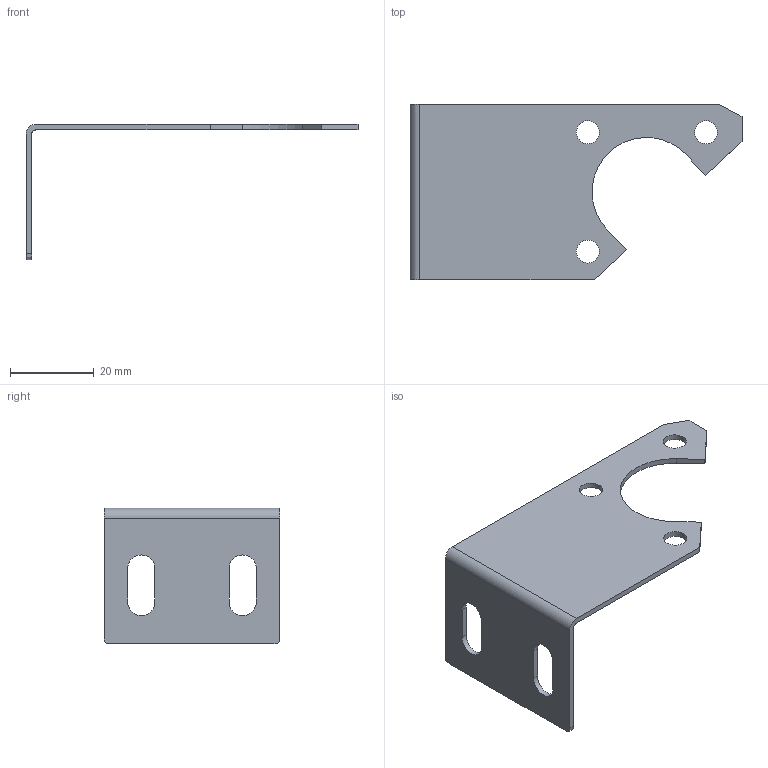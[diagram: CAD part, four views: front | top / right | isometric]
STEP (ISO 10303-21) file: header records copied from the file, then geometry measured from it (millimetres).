
FILE_DESCRIPTION(/* description */ (''),/* implementation_level */ '2;1');
FILE_NAME(/* name */ 'B-BW00-52.step',/* time_stamp */ '2024-07-09T15:12:33+02:00',/* author */ (''),/* organization */ (''),/* preprocessor_version */ 'ST-DEVELOPER v20',/* originating_system */ 'Autodesk Translation Framework v13.14.0.145',/* authorisation */ '');
FILE_SCHEMA (('AUTOMOTIVE_DESIGN { 1 0 10303 214 3 1 1 }'));
Length unit declared in the file: millimetre
Products named in the file (1): BW00-52
Bounding box: 79.35 x 42 x 32.35 mm (x, y, z)
Volume: 4492.8 mm3; surface area: 7240.8 mm2
Topology: 1 solids, 1 shells, 29 faces, 81 edges, 54 vertices
Faces by surface type: plane 17, cylinder 10, bspline 2
Full cylindrical faces by diameter (mm): 5.5 x3
Entity records: 1087 total; most frequent: CARTESIAN_POINT 279, ORIENTED_EDGE 162, DIRECTION 149, EDGE_CURVE 81, VERTEX_POINT 54, LINE 53, VECTOR 53, AXIS2_PLACEMENT_3D 48
